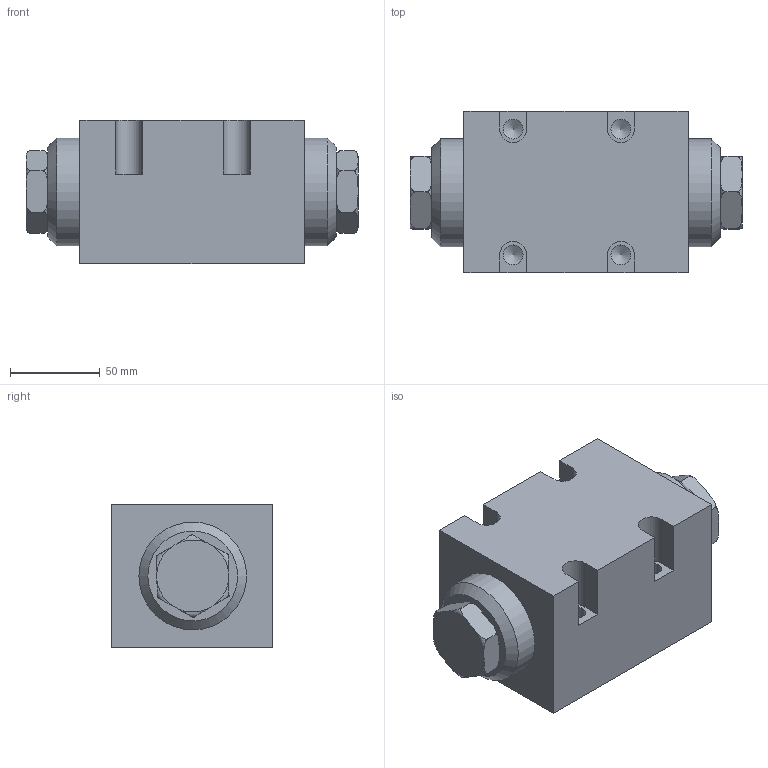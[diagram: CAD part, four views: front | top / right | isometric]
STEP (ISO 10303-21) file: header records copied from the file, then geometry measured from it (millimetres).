
FILE_DESCRIPTION(/* description */ (''),/* implementation_level */ '2;1');
FILE_NAME(/* name */ '17-2.prt.stp',/* time_stamp */ '2023-05-03T14:36:47+08:00',/* author */ (''),/* organization */ (''),/* preprocessor_version */ 'ST-DEVELOPER v16.7',/* originating_system */ 'SIEMENS PLM Software NX 12.0',/* authorisation */ '');
FILE_SCHEMA (('AUTOMOTIVE_DESIGN { 1 0 10303 214 3 1 1 1 }'));
Length unit declared in the file: millimetre
Products named in the file (1): 17-2
Bounding box: 185 x 90 x 80 mm (x, y, z)
Volume: 986011.1 mm3; surface area: 80980.3 mm2
Topology: 3 solids, 3 shells, 88 faces, 231 edges, 154 vertices
Faces by surface type: plane 39, torus 24, cylinder 16, cone 9
Full cylindrical faces by diameter (mm): 6 x2, 8 x1, 11 x4, 14 x2, 16 x1, 60 x2
Entity records: 2862 total; most frequent: CARTESIAN_POINT 860, ORIENTED_EDGE 388, DIRECTION 382, EDGE_CURVE 194, AXIS2_PLACEMENT_3D 147, VERTEX_POINT 145, EDGE_LOOP 114, ADVANCED_FACE 88
